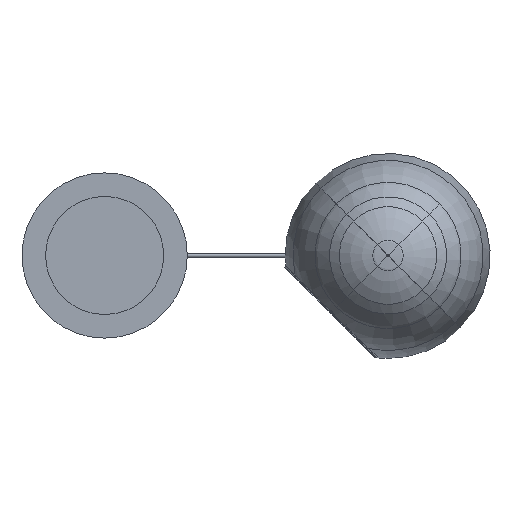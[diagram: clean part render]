
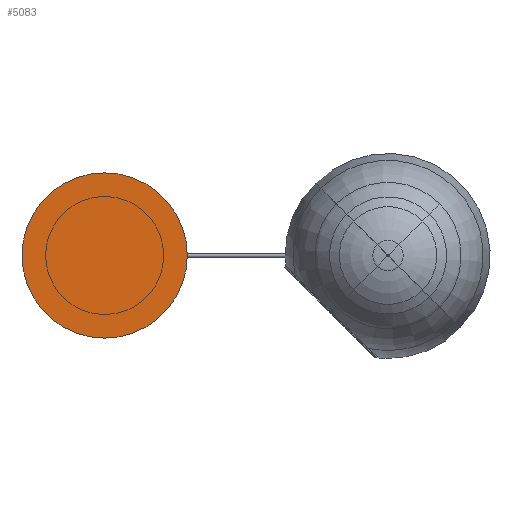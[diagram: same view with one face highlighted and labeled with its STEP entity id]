
A CAD part, front view. The second image highlights one B-rep face of the part: STEP entity #5083.
In plain terms, the highlighted planar face has unit normal (0, -1, 0).
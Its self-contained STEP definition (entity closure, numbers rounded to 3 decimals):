
#369 = CARTESIAN_POINT ( 'NONE',  ( 0., -15., 70. ) ) ;
#610 = ORIENTED_EDGE ( 'NONE', *, *, #5151, .T. ) ;
#678 = CARTESIAN_POINT ( 'NONE',  ( 0., -15., 0. ) ) ;
#1083 = AXIS2_PLACEMENT_3D ( 'NONE', #678, #12625, #5137 ) ;
#2616 = CIRCLE ( 'NONE', #1083, 70. ) ;
#4542 = EDGE_CURVE ( 'NONE', #5443, #10826, #7528, .T. ) ;
#4649 = PLANE ( 'NONE',  #9547 ) ;
#4716 = DIRECTION ( 'NONE',  ( 0., -1., 0. ) ) ;
#5083 = ADVANCED_FACE ( 'NONE', ( #6817 ), #4649, .T. ) ;
#5137 = DIRECTION ( 'NONE',  ( 0., 0., -1. ) ) ;
#5151 = EDGE_CURVE ( 'NONE', #10826, #5443, #2616, .T. ) ;
#5443 = VERTEX_POINT ( 'NONE', #369 ) ;
#6817 = FACE_OUTER_BOUND ( 'NONE', #7011, .T. ) ;
#7011 = EDGE_LOOP ( 'NONE', ( #610, #12441 ) ) ;
#7368 = CARTESIAN_POINT ( 'NONE',  ( 0., -15., -70. ) ) ;
#7528 = CIRCLE ( 'NONE', #11101, 70. ) ;
#8842 = DIRECTION ( 'NONE',  ( 0., 0., -1. ) ) ;
#9163 = DIRECTION ( 'NONE',  ( 0., -1., 0. ) ) ;
#9547 = AXIS2_PLACEMENT_3D ( 'NONE', #10035, #4716, #8842 ) ;
#10035 = CARTESIAN_POINT ( 'NONE',  ( 0., -15., -70. ) ) ;
#10078 = CARTESIAN_POINT ( 'NONE',  ( 0., -15., 0. ) ) ;
#10826 = VERTEX_POINT ( 'NONE', #7368 ) ;
#11101 = AXIS2_PLACEMENT_3D ( 'NONE', #10078, #9163, #11201 ) ;
#11201 = DIRECTION ( 'NONE',  ( 0., 0., -1. ) ) ;
#12441 = ORIENTED_EDGE ( 'NONE', *, *, #4542, .T. ) ;
#12625 = DIRECTION ( 'NONE',  ( 0., -1., 0. ) ) ;
